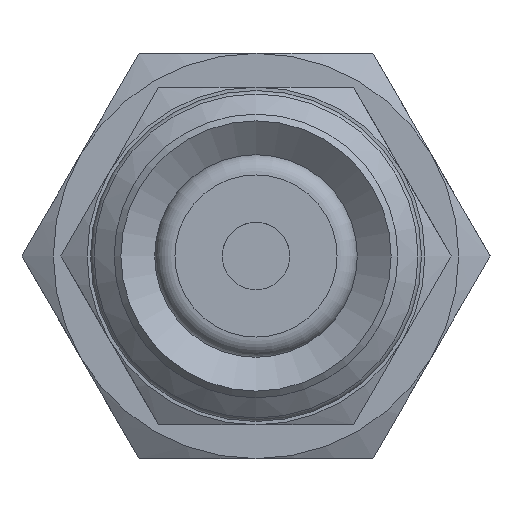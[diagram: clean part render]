
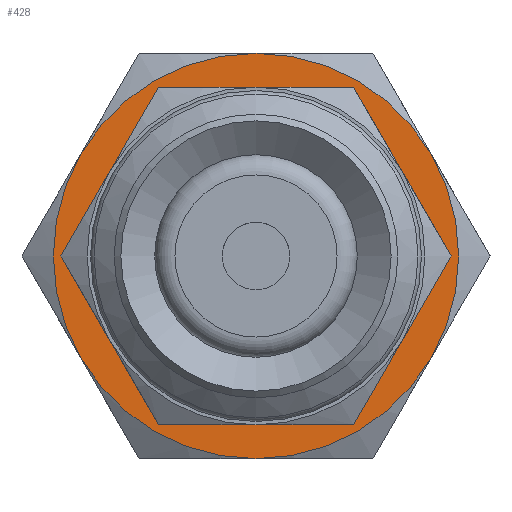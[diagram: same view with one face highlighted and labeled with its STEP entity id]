
A CAD part, front view. The second image highlights one B-rep face of the part: STEP entity #428.
In plain terms, the highlighted planar face has unit normal (0, -1, 0) as drawn and (-1, 0, 0) by its records, which use the part's own axes.
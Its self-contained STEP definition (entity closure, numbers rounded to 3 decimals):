
#428=ADVANCED_FACE('',(#580,#581),#582,.F.);
#580=FACE_BOUND('',#858,.T.);
#581=FACE_OUTER_BOUND('',#859,.T.);
#582=PLANE('',#860);
#858=EDGE_LOOP('',(#1274));
#859=EDGE_LOOP('',(#1275,#1276,#1277,#1278,#1279,#1280));
#860=AXIS2_PLACEMENT_3D('',#1281,#1282,#1283);
#1274=ORIENTED_EDGE('',*,*,#1884,.T.);
#1275=ORIENTED_EDGE('',*,*,#1875,.F.);
#1276=ORIENTED_EDGE('',*,*,#1846,.F.);
#1277=ORIENTED_EDGE('',*,*,#1876,.F.);
#1278=ORIENTED_EDGE('',*,*,#1861,.F.);
#1279=ORIENTED_EDGE('',*,*,#1860,.F.);
#1280=ORIENTED_EDGE('',*,*,#1874,.F.);
#1281=CARTESIAN_POINT('',(0.,0.0,0.0));
#1282=DIRECTION('',(1.0,0.0,0.0));
#1283=DIRECTION('',(0.0,1.0,0.0));
#1846=EDGE_CURVE('',#2071,#2074,#2075,.T.);
#1860=EDGE_CURVE('',#2097,#2094,#2099,.T.);
#1861=EDGE_CURVE('',#2094,#2100,#2101,.T.);
#1874=EDGE_CURVE('',#2091,#2097,#2119,.T.);
#1875=EDGE_CURVE('',#2074,#2091,#2120,.T.);
#1876=EDGE_CURVE('',#2100,#2071,#2121,.T.);
#1884=EDGE_CURVE('',#2132,#2132,#2133,.T.);
#2071=VERTEX_POINT('',#2461);
#2074=VERTEX_POINT('',#2484);
#2075=CIRCLE('',#2485,6.0);
#2091=VERTEX_POINT('',#2563);
#2094=VERTEX_POINT('',#2586);
#2097=VERTEX_POINT('',#2599);
#2099=CIRCLE('',#2611,6.0);
#2100=VERTEX_POINT('',#2612);
#2101=CIRCLE('',#2613,6.0);
#2119=CIRCLE('',#2713,6.0);
#2120=CIRCLE('',#2714,6.0);
#2121=CIRCLE('',#2715,6.0);
#2132=VERTEX_POINT('',#2746);
#2133=CIRCLE('',#2747,4.0);
#2461=CARTESIAN_POINT('',(0.,0.0,-6.0));
#2484=CARTESIAN_POINT('',(0.,5.196,-3.0));
#2485=AXIS2_PLACEMENT_3D('',#3180,#3181,#3182);
#2563=CARTESIAN_POINT('',(0.,5.196,3.0));
#2586=CARTESIAN_POINT('',(0.,-5.196,3.0));
#2599=CARTESIAN_POINT('',(0.,0.0,6.0));
#2611=AXIS2_PLACEMENT_3D('',#3188,#3189,#3190);
#2612=CARTESIAN_POINT('',(0.,-5.196,-3.0));
#2613=AXIS2_PLACEMENT_3D('',#3191,#3192,#3193);
#2713=AXIS2_PLACEMENT_3D('',#3202,#3203,#3204);
#2714=AXIS2_PLACEMENT_3D('',#3205,#3206,#3207);
#2715=AXIS2_PLACEMENT_3D('',#3208,#3209,#3210);
#2746=CARTESIAN_POINT('',(0.,0.0,-4.0));
#2747=AXIS2_PLACEMENT_3D('',#3226,#3227,#3228);
#3180=CARTESIAN_POINT('',(0.,0.0,0.0));
#3181=DIRECTION('',(1.0,0.0,0.0));
#3182=DIRECTION('',(0.0,0.0,-1.0));
#3188=CARTESIAN_POINT('',(0.,0.0,0.0));
#3189=DIRECTION('',(1.0,0.0,0.0));
#3190=DIRECTION('',(0.0,0.0,-1.0));
#3191=CARTESIAN_POINT('',(0.,0.0,0.0));
#3192=DIRECTION('',(1.0,0.0,0.0));
#3193=DIRECTION('',(0.0,0.0,-1.0));
#3202=CARTESIAN_POINT('',(0.,0.0,0.0));
#3203=DIRECTION('',(1.0,0.0,0.0));
#3204=DIRECTION('',(0.0,0.0,-1.0));
#3205=CARTESIAN_POINT('',(0.,0.0,0.0));
#3206=DIRECTION('',(1.0,0.0,0.0));
#3207=DIRECTION('',(0.0,0.0,-1.0));
#3208=CARTESIAN_POINT('',(0.,0.0,0.0));
#3209=DIRECTION('',(1.0,0.0,0.0));
#3210=DIRECTION('',(0.0,0.0,-1.0));
#3226=CARTESIAN_POINT('',(0.,0.0,0.0));
#3227=DIRECTION('',(1.0,0.0,0.0));
#3228=DIRECTION('',(0.0,0.0,-1.0));
